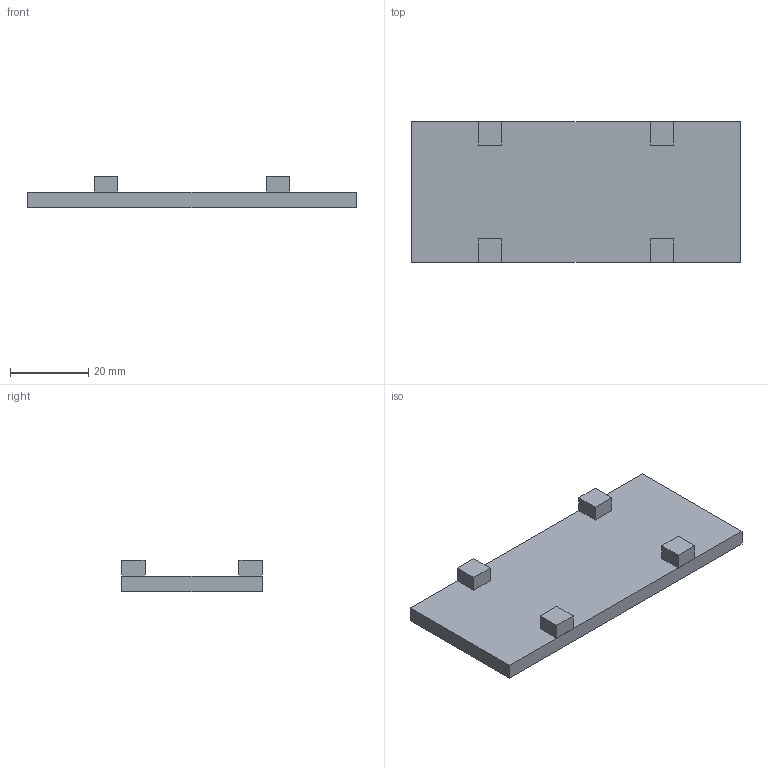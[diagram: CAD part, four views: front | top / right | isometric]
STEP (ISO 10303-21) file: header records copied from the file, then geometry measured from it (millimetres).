
FILE_DESCRIPTION(('Open CASCADE Model'),'2;1');
FILE_NAME('opt_base','2026-08-12T02:42:45',('Author'),('Open CASCADE'), 'Open CASCADE STEP processor 7.9','build123d','Unknown');
FILE_SCHEMA(('AUTOMOTIVE_DESIGN { 1 0 10303 214 1 1 1 1 }'));
Length unit declared in the file: millimetre
Products named in the file (6): opt_base; COMPOUND
Assembly tree (5 placements, depth 2):
  opt_base
    COMPOUND
    COMPOUND
    COMPOUND
    COMPOUND
    COMPOUND
Bounding box: 84 x 36 x 8 mm (x, y, z)
Volume: 12672 mm3; surface area: 7680 mm2
Topology: 5 solids, 5 shells, 30 faces, 60 edges, 40 vertices
Faces by surface type: plane 30
Entity records: 1636 total; most frequent: CARTESIAN_POINT 256, DIRECTION 252, LINE 180, VECTOR 180, ORIENTED_EDGE 120, PCURVE 120, DEFINITIONAL_REPRESENTATION 120, EDGE_CURVE 60
